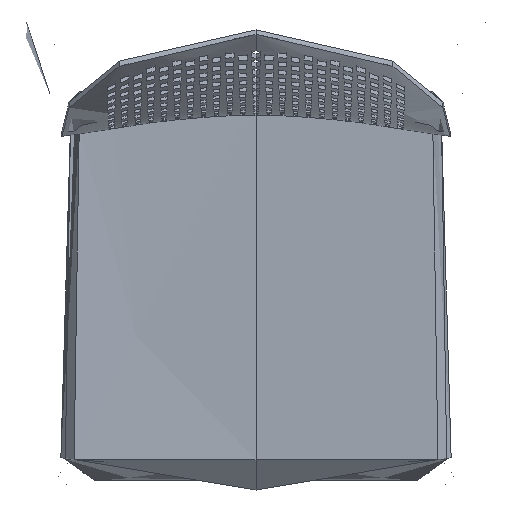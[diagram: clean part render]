
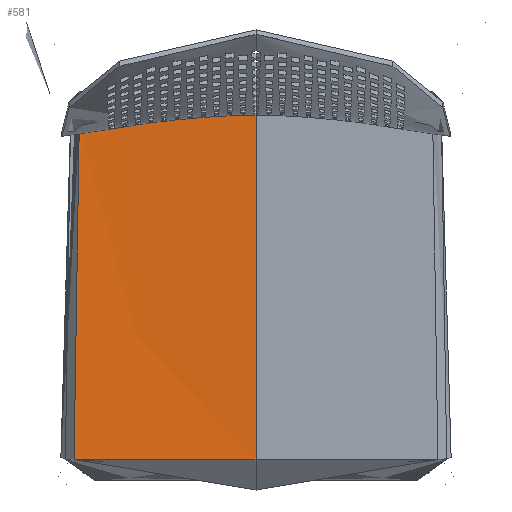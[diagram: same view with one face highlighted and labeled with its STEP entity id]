
A CAD part, top view. The second image highlights one B-rep face of the part: STEP entity #581.
In plain terms, the highlighted free-form (B-spline) face has degree [3, 3] with [4, 6] control points.
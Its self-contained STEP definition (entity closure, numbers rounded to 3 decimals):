
#581=ADVANCED_FACE('',(#1677),#20340,.T.);
#1677=FACE_OUTER_BOUND('',#2773,.T.);
#2773=EDGE_LOOP('',(#4433,#4434,#4435,#4436,#4437));
#4433=ORIENTED_EDGE('',*,*,#10804,.T.);
#4434=ORIENTED_EDGE('',*,*,#10792,.T.);
#4435=ORIENTED_EDGE('',*,*,#10793,.F.);
#4436=ORIENTED_EDGE('',*,*,#10803,.T.);
#4437=ORIENTED_EDGE('',*,*,#10811,.F.);
#10792=EDGE_CURVE('',#17228,#17230,#14114,.T.);
#10793=EDGE_CURVE('',#17229,#17230,#14115,.T.);
#10803=EDGE_CURVE('',#17229,#17236,#14125,.T.);
#10804=EDGE_CURVE('',#17238,#17228,#14126,.T.);
#10811=EDGE_CURVE('',#17238,#17236,#13948,.T.);
#13948=(
BOUNDED_CURVE()
B_SPLINE_CURVE(3,(#25724,#25725,#25726,#25727,#25728,#25729,#25730,#25731,
#25732,#25733,#25734,#25735,#25736,#25737,#25738,#25739,#25740,#25741,#25742,
#25743),.UNSPECIFIED.,.F.,.F.)
B_SPLINE_CURVE_WITH_KNOTS((4,3,3,1,1,1,1,1,1,1,3,4),(-0.392,
-0.39,6.301,10.816,15.904,21.689,
28.102,34.77,41.018,46.433,51.07,
56.446),.UNSPECIFIED.)
CURVE()
GEOMETRIC_REPRESENTATION_ITEM()
RATIONAL_B_SPLINE_CURVE((1.,1.,1.,1.,1.,1.,1.,1.,1.,1.,1.,
1.,1.,1.,1.,1.,1.,1.,1.,1.))
REPRESENTATION_ITEM('')
);
#14114=B_SPLINE_CURVE_WITH_KNOTS('',3,(#25488,#25489,#25490,#25491),
 .UNSPECIFIED.,.F.,.F.,(4,4),(0.,208.2),.UNSPECIFIED.);
#14115=B_SPLINE_CURVE_WITH_KNOTS('',3,(#25492,#25493,#25494,#25495,#25496,
#25497),.UNSPECIFIED.,.F.,.F.,(4,1,1,4),(-469.281,-336.575,
-192.091,-47.607),.UNSPECIFIED.);
#14125=B_SPLINE_CURVE_WITH_KNOTS('',3,(#25637,#25638,#25639,#25640),
 .UNSPECIFIED.,.F.,.F.,(4,4),(0.,169.177),.UNSPECIFIED.);
#14126=B_SPLINE_CURVE_WITH_KNOTS('',3,(#25641,#25642,#25643,#25644,#25645),
 .UNSPECIFIED.,.F.,.F.,(4,1,4),(235.672,614.063,616.504),
 .UNSPECIFIED.);
#17228=VERTEX_POINT('',#25458);
#17229=VERTEX_POINT('',#25459);
#17230=VERTEX_POINT('',#25460);
#17236=VERTEX_POINT('',#25466);
#17238=VERTEX_POINT('',#25468);
#20340=B_SPLINE_SURFACE_WITH_KNOTS('',3,3,((#23464,#23465,#23466,#23467,
#23468,#23469),(#23470,#23471,#23472,#23473,#23474,#23475),(#23476,#23477,
#23478,#23479,#23480,#23481),(#23482,#23483,#23484,#23485,#23486,#23487)),
 .UNSPECIFIED.,.F.,.F.,.F.,(4,4),(4,1,1,4),(0.,208.2),(47.607,
192.091,336.575,469.281),.UNSPECIFIED.);
#23464=CARTESIAN_POINT('',(-207.61,-201.221,766.733));
#23465=CARTESIAN_POINT('',(-206.89,-154.73,767.));
#23466=CARTESIAN_POINT('',(-205.45,-61.748,767.535));
#23467=CARTESIAN_POINT('',(-203.349,73.935,768.314));
#23468=CARTESIAN_POINT('',(-201.968,163.127,768.827));
#23469=CARTESIAN_POINT('',(-201.307,205.828,769.072));
#23470=CARTESIAN_POINT('',(-138.406,-201.177,764.734));
#23471=CARTESIAN_POINT('',(-137.927,-164.801,764.943));
#23472=CARTESIAN_POINT('',(-136.967,-58.318,757.851));
#23473=CARTESIAN_POINT('',(-135.566,86.936,759.161));
#23474=CARTESIAN_POINT('',(-134.645,173.218,763.778));
#23475=CARTESIAN_POINT('',(-134.204,212.578,765.933));
#23476=CARTESIAN_POINT('',(-69.203,-201.154,763.734));
#23477=CARTESIAN_POINT('',(-68.963,-169.836,763.914));
#23478=CARTESIAN_POINT('',(-68.483,-56.604,753.009));
#23479=CARTESIAN_POINT('',(-67.783,93.436,754.584));
#23480=CARTESIAN_POINT('',(-67.323,178.264,761.253));
#23481=CARTESIAN_POINT('',(-67.102,215.953,764.363));
#23482=CARTESIAN_POINT('',(0.,-201.154,763.734));
#23483=CARTESIAN_POINT('',(0.,-169.836,763.914));
#23484=CARTESIAN_POINT('',(0.,-56.604,753.009));
#23485=CARTESIAN_POINT('',(0.,93.436,754.584));
#23486=CARTESIAN_POINT('',(0.,178.264,761.253));
#23487=CARTESIAN_POINT('',(0.,215.953,764.363));
#25458=CARTESIAN_POINT('',(-207.61,-201.221,766.733));
#25459=CARTESIAN_POINT('',(0.,215.953,764.363));
#25460=CARTESIAN_POINT('',(0.,-201.154,763.734));
#25466=CARTESIAN_POINT('',(-166.693,209.011,767.592));
#25468=CARTESIAN_POINT('',(-201.765,176.397,768.904));
#25488=CARTESIAN_POINT('',(-207.61,-201.221,766.733));
#25489=CARTESIAN_POINT('',(-138.406,-201.177,764.734));
#25490=CARTESIAN_POINT('',(-69.203,-201.154,763.734));
#25491=CARTESIAN_POINT('',(0.,-201.154,763.734));
#25492=CARTESIAN_POINT('',(0.,215.953,764.363));
#25493=CARTESIAN_POINT('',(0.,178.264,761.253));
#25494=CARTESIAN_POINT('',(0.,93.436,754.584));
#25495=CARTESIAN_POINT('',(0.,-56.604,753.009));
#25496=CARTESIAN_POINT('',(0.,-169.836,763.914));
#25497=CARTESIAN_POINT('',(0.,-201.154,763.734));
#25637=CARTESIAN_POINT('',(0.,215.953,764.363));
#25638=CARTESIAN_POINT('',(-55.652,215.954,764.363));
#25639=CARTESIAN_POINT('',(-111.239,213.627,765.444));
#25640=CARTESIAN_POINT('',(-166.693,209.011,767.592));
#25641=CARTESIAN_POINT('',(-201.765,176.397,768.904));
#25642=CARTESIAN_POINT('',(-203.697,51.302,768.188));
#25643=CARTESIAN_POINT('',(-205.651,-74.693,767.447));
#25644=CARTESIAN_POINT('',(-207.595,-200.207,766.758));
#25645=CARTESIAN_POINT('',(-207.61,-201.221,766.733));
#25724=CARTESIAN_POINT('',(-201.765,176.397,768.904));
#25725=CARTESIAN_POINT('',(-201.764,176.397,768.904));
#25726=CARTESIAN_POINT('',(-201.763,176.397,768.904));
#25727=CARTESIAN_POINT('',(-201.762,176.397,768.904));
#25728=CARTESIAN_POINT('',(-199.541,176.439,768.755));
#25729=CARTESIAN_POINT('',(-197.319,176.494,768.607));
#25730=CARTESIAN_POINT('',(-195.1,176.603,768.463));
#25731=CARTESIAN_POINT('',(-193.602,176.678,768.365));
#25732=CARTESIAN_POINT('',(-190.422,176.899,768.159));
#25733=CARTESIAN_POINT('',(-185.365,177.674,767.847));
#25734=CARTESIAN_POINT('',(-179.891,179.466,767.538));
#25735=CARTESIAN_POINT('',(-174.545,182.829,767.292));
#25736=CARTESIAN_POINT('',(-170.339,187.771,767.18));
#25737=CARTESIAN_POINT('',(-167.892,193.408,767.207));
#25738=CARTESIAN_POINT('',(-166.881,198.756,767.309));
#25739=CARTESIAN_POINT('',(-166.675,202.099,767.395));
#25740=CARTESIAN_POINT('',(-166.633,203.643,767.437));
#25741=CARTESIAN_POINT('',(-166.59,205.432,767.486));
#25742=CARTESIAN_POINT('',(-166.606,207.224,767.538));
#25743=CARTESIAN_POINT('',(-166.693,209.011,767.592));
